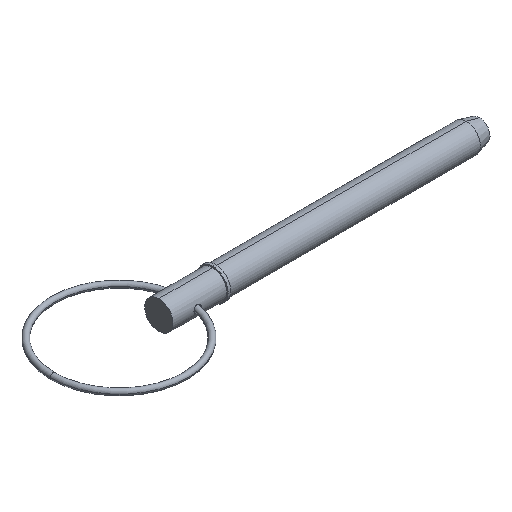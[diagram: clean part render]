
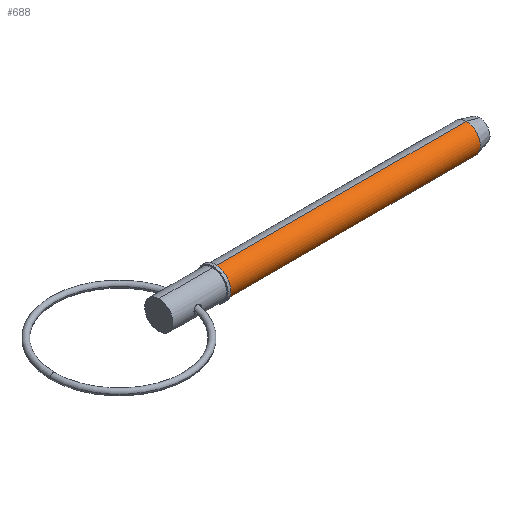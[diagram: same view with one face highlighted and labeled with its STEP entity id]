
A CAD part, isometric view. The second image highlights one B-rep face of the part: STEP entity #688.
In plain terms, the highlighted cylindrical face has radius 4.765 mm (diameter 9.53 mm), a partial arc.
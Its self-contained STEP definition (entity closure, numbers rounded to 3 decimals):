
#12 = CARTESIAN_POINT ( 'NONE',  ( 103.504, 0., 4.765 ) ) ;
#31 = EDGE_CURVE ( 'NONE', #840, #274, #118, .T. ) ;
#42 = CARTESIAN_POINT ( 'NONE',  ( 0., 0., 0. ) ) ;
#84 = EDGE_CURVE ( 'NONE', #409, #903, #543, .T. ) ;
#101 = VECTOR ( 'NONE', #791, 1000. ) ;
#118 = CIRCLE ( 'NONE', #423, 4.765 ) ;
#150 = CARTESIAN_POINT ( 'NONE',  ( 0., 0., -4.765 ) ) ;
#202 = ORIENTED_EDGE ( 'NONE', *, *, #31, .T. ) ;
#231 = CARTESIAN_POINT ( 'NONE',  ( 0., 0., 4.765 ) ) ;
#253 = ORIENTED_EDGE ( 'NONE', *, *, #710, .T. ) ;
#274 = VERTEX_POINT ( 'NONE', #792 ) ;
#281 = CARTESIAN_POINT ( 'NONE',  ( 103.504, 0., 0. ) ) ;
#348 = ORIENTED_EDGE ( 'NONE', *, *, #789, .F. ) ;
#363 = ORIENTED_EDGE ( 'NONE', *, *, #84, .F. ) ;
#381 = DIRECTION ( 'NONE',  ( 1., 0., 0. ) ) ;
#387 = LINE ( 'NONE', #231, #101 ) ;
#409 = VERTEX_POINT ( 'NONE', #12 ) ;
#423 = AXIS2_PLACEMENT_3D ( 'NONE', #984, #505, #824 ) ;
#439 = LINE ( 'NONE', #150, #829 ) ;
#505 = DIRECTION ( 'NONE',  ( 1., 0., 0. ) ) ;
#543 = CIRCLE ( 'NONE', #642, 4.765 ) ;
#642 = AXIS2_PLACEMENT_3D ( 'NONE', #281, #687, #846 ) ;
#644 = AXIS2_PLACEMENT_3D ( 'NONE', #42, #751, #992 ) ;
#687 = DIRECTION ( 'NONE',  ( 1., 0., 0. ) ) ;
#688 = ADVANCED_FACE ( 'NONE', ( #851 ), #835, .T. ) ;
#710 = EDGE_CURVE ( 'NONE', #274, #903, #439, .T. ) ;
#721 = CARTESIAN_POINT ( 'NONE',  ( 103.504, 0., -4.765 ) ) ;
#751 = DIRECTION ( 'NONE',  ( 1., 0., 0. ) ) ;
#789 = EDGE_CURVE ( 'NONE', #840, #409, #387, .T. ) ;
#791 = DIRECTION ( 'NONE',  ( 1., 0., 0. ) ) ;
#792 = CARTESIAN_POINT ( 'NONE',  ( 19.05, 0., -4.765 ) ) ;
#824 = DIRECTION ( 'NONE',  ( 0., 0., -1. ) ) ;
#829 = VECTOR ( 'NONE', #381, 1000. ) ;
#835 = CYLINDRICAL_SURFACE ( 'NONE', #644, 4.765 ) ;
#840 = VERTEX_POINT ( 'NONE', #871 ) ;
#846 = DIRECTION ( 'NONE',  ( 0., 0., -1. ) ) ;
#851 = FACE_OUTER_BOUND ( 'NONE', #852, .T. ) ;
#852 = EDGE_LOOP ( 'NONE', ( #348, #202, #253, #363 ) ) ;
#871 = CARTESIAN_POINT ( 'NONE',  ( 19.05, 0., 4.765 ) ) ;
#903 = VERTEX_POINT ( 'NONE', #721 ) ;
#984 = CARTESIAN_POINT ( 'NONE',  ( 19.05, 0., 0. ) ) ;
#992 = DIRECTION ( 'NONE',  ( 0., 0., -1. ) ) ;
